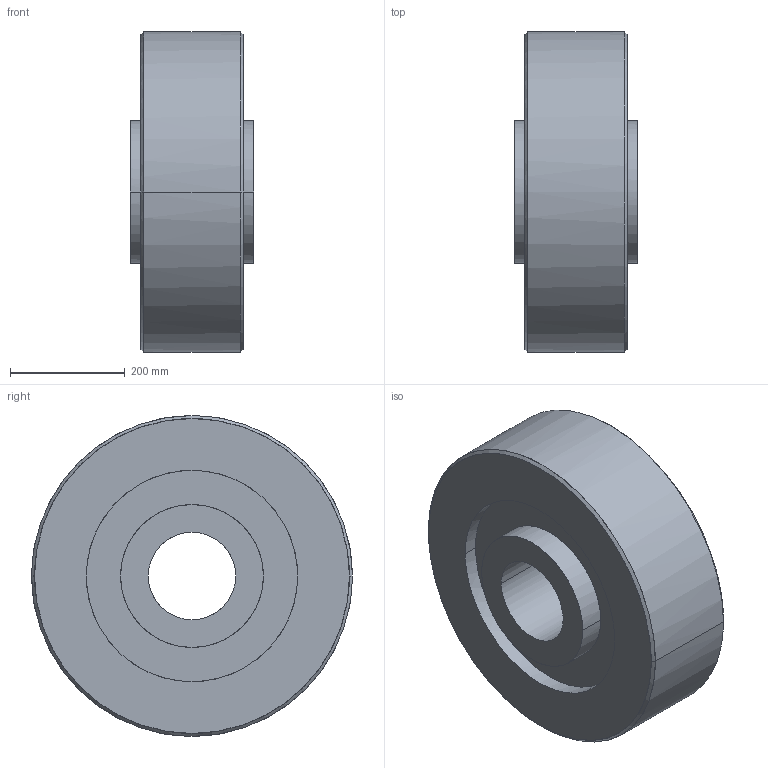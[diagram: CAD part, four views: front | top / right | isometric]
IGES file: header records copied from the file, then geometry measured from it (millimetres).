
Global section: native system: Kubotek KeyCreator; preprocessor: KCM Version 1.1.1442.0; author: KeyCreator User; organization: Self; date: 20170713.013330; units: inch
Bounding box: 215.9 x 558.8 x 558.8 mm (x, y, z)
Surface area: 987675.7 mm2 (no closed solid volume)
Topology: 0 solids, 0 shells, 22 faces, 144 edges, 144 vertices
Faces by surface type: bspline 22
